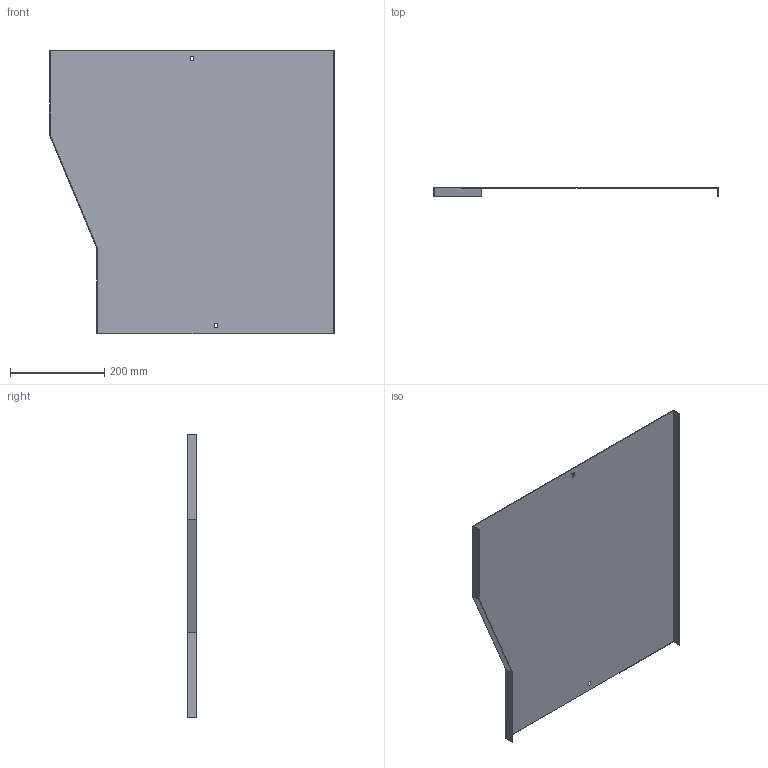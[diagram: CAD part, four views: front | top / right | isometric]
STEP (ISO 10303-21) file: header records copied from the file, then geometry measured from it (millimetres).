
FILE_DESCRIPTION (( 'STEP AP214' ), '1' );
FILE_NAME ('B2X21N5R600X.step', '2025-09-02T15:44:50', ( '' ), ( '' ), 'SwSTEP 2.0', 'SolidWorks 2023', '' );
FILE_SCHEMA (( 'AUTOMOTIVE_DESIGN' ));
Length unit declared in the file: millimetre
Products named in the file (1): B2X21N5R600X
Bounding box: 603 x 20 x 600 mm (x, y, z)
Volume: 531379.5 mm3; surface area: 712199 mm2
Topology: 1 solids, 1 shells, 22 faces, 60 edges, 40 vertices
Faces by surface type: plane 22
Entity records: 715 total; most frequent: CARTESIAN_POINT 123, ORIENTED_EDGE 120, DIRECTION 106, LINE 60, EDGE_CURVE 60, VECTOR 60, VERTEX_POINT 40, EDGE_LOOP 26
